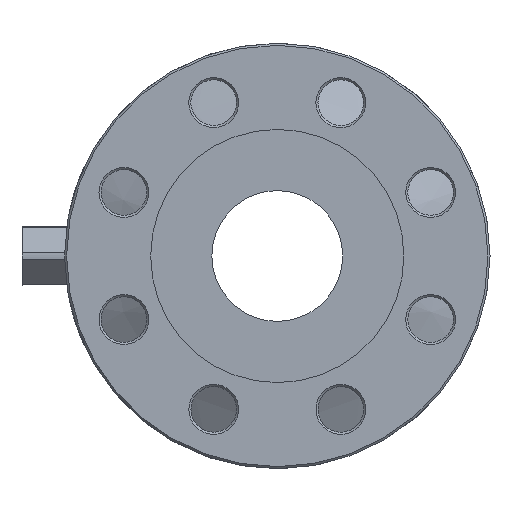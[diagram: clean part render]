
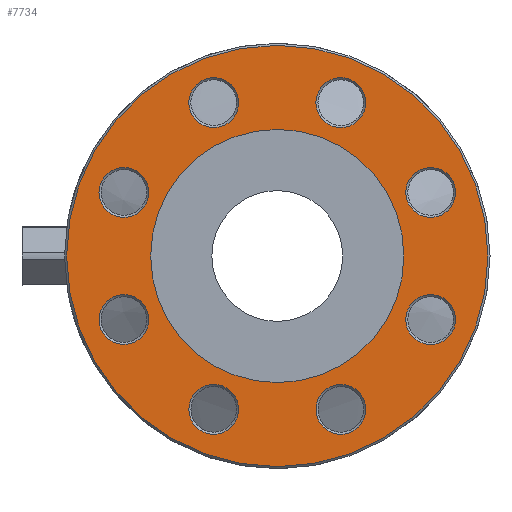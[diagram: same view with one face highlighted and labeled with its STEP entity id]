
A CAD part, left-side view. The second image highlights one B-rep face of the part: STEP entity #7734.
In plain terms, the highlighted planar face has unit normal (-1, 0, 0).
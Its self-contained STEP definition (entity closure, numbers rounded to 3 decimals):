
#7615=CARTESIAN_POINT('',(-114.,-39.1,-82.396));
#7616=VERTEX_POINT('',#7615);
#7617=CARTESIAN_POINT('',(-114.,-30.615,-73.91));
#7618=DIRECTION('',(-1.0,0.0,0.0));
#7619=DIRECTION('',(0.0,0.707,0.707));
#7620=AXIS2_PLACEMENT_3D('',#7617,#7618,#7619);
#7621=CIRCLE('',#7620,12.0);
#7622=EDGE_CURVE('',#7616,#7616,#7621,.T.);
#7627=CARTESIAN_POINT('',(-114.,-81.25,0.0));
#7628=DIRECTION('',(-1.0,0.0,0.0));
#7629=DIRECTION('',(0.0,0.0,1.0));
#7630=AXIS2_PLACEMENT_3D('',#7627,#7628,#7629);
#7631=PLANE('',#7630);
#7632=CARTESIAN_POINT('',(-114.,-101.5,0.0));
#7633=VERTEX_POINT('',#7632);
#7634=CARTESIAN_POINT('',(-114.,0.0,0.0));
#7635=DIRECTION('',(1.0,0.0,0.0));
#7636=DIRECTION('',(0.0,-1.0,0.0));
#7637=AXIS2_PLACEMENT_3D('',#7634,#7635,#7636);
#7638=CIRCLE('',#7637,101.5);
#7639=EDGE_CURVE('',#7633,#7633,#7638,.T.);
#7640=ORIENTED_EDGE('',*,*,#7639,.F.);
#7641=EDGE_LOOP('',(#7640));
#7642=FACE_OUTER_BOUND('',#7641,.T.);
#7643=CARTESIAN_POINT('',(-114.,-85.91,-30.615));
#7644=VERTEX_POINT('',#7643);
#7645=CARTESIAN_POINT('',(-114.,-73.91,-30.615));
#7646=DIRECTION('',(-1.0,0.0,0.0));
#7647=DIRECTION('',(0.0,1.0,0.0));
#7648=AXIS2_PLACEMENT_3D('',#7645,#7646,#7647);
#7649=CIRCLE('',#7648,12.);
#7650=EDGE_CURVE('',#7644,#7644,#7649,.T.);
#7651=ORIENTED_EDGE('',*,*,#7650,.F.);
#7652=EDGE_LOOP('',(#7651));
#7653=FACE_BOUND('',#7652,.T.);
#7654=CARTESIAN_POINT('',(-114.,-30.615,85.91));
#7655=VERTEX_POINT('',#7654);
#7656=CARTESIAN_POINT('',(-114.,-30.615,73.91));
#7657=DIRECTION('',(-1.0,0.0,0.0));
#7658=DIRECTION('',(0.0,0.0,-1.0));
#7659=AXIS2_PLACEMENT_3D('',#7656,#7657,#7658);
#7660=CIRCLE('',#7659,12.);
#7661=EDGE_CURVE('',#7655,#7655,#7660,.T.);
#7662=ORIENTED_EDGE('',*,*,#7661,.F.);
#7663=EDGE_LOOP('',(#7662));
#7664=FACE_BOUND('',#7663,.T.);
#7665=CARTESIAN_POINT('',(-114.,85.91,30.615));
#7666=VERTEX_POINT('',#7665);
#7667=CARTESIAN_POINT('',(-114.,73.91,30.615));
#7668=DIRECTION('',(-1.0,0.0,0.0));
#7669=DIRECTION('',(0.0,-1.0,0.0));
#7670=AXIS2_PLACEMENT_3D('',#7667,#7668,#7669);
#7671=CIRCLE('',#7670,12.);
#7672=EDGE_CURVE('',#7666,#7666,#7671,.T.);
#7673=ORIENTED_EDGE('',*,*,#7672,.F.);
#7674=EDGE_LOOP('',(#7673));
#7675=FACE_BOUND('',#7674,.T.);
#7676=CARTESIAN_POINT('',(-114.,30.615,-85.91));
#7677=VERTEX_POINT('',#7676);
#7678=CARTESIAN_POINT('',(-114.,30.615,-73.91));
#7679=DIRECTION('',(-1.0,0.0,0.0));
#7680=DIRECTION('',(0.0,0.0,1.0));
#7681=AXIS2_PLACEMENT_3D('',#7678,#7679,#7680);
#7682=CIRCLE('',#7681,12.);
#7683=EDGE_CURVE('',#7677,#7677,#7682,.T.);
#7684=ORIENTED_EDGE('',*,*,#7683,.F.);
#7685=EDGE_LOOP('',(#7684));
#7686=FACE_BOUND('',#7685,.T.);
#7687=CARTESIAN_POINT('',(-114.,-61.,0.0));
#7688=VERTEX_POINT('',#7687);
#7689=CARTESIAN_POINT('',(-114.,0.0,0.0));
#7690=DIRECTION('',(1.0,0.0,0.0));
#7691=DIRECTION('',(0.0,-1.0,0.0));
#7692=AXIS2_PLACEMENT_3D('',#7689,#7690,#7691);
#7693=CIRCLE('',#7692,61.);
#7694=EDGE_CURVE('',#7688,#7688,#7693,.T.);
#7695=ORIENTED_EDGE('',*,*,#7694,.T.);
#7696=EDGE_LOOP('',(#7695));
#7697=FACE_BOUND('',#7696,.T.);
#7698=CARTESIAN_POINT('',(-114.,82.396,-39.1));
#7699=VERTEX_POINT('',#7698);
#7700=CARTESIAN_POINT('',(-114.,73.91,-30.615));
#7701=DIRECTION('',(-1.0,0.0,0.0));
#7702=DIRECTION('',(0.0,-0.707,0.707));
#7703=AXIS2_PLACEMENT_3D('',#7700,#7701,#7702);
#7704=CIRCLE('',#7703,12.);
#7705=EDGE_CURVE('',#7699,#7699,#7704,.T.);
#7706=ORIENTED_EDGE('',*,*,#7705,.F.);
#7707=EDGE_LOOP('',(#7706));
#7708=FACE_BOUND('',#7707,.T.);
#7709=CARTESIAN_POINT('',(-114.,39.1,82.396));
#7710=VERTEX_POINT('',#7709);
#7711=CARTESIAN_POINT('',(-114.,30.615,73.91));
#7712=DIRECTION('',(-1.0,0.0,0.0));
#7713=DIRECTION('',(0.0,-0.707,-0.707));
#7714=AXIS2_PLACEMENT_3D('',#7711,#7712,#7713);
#7715=CIRCLE('',#7714,12.);
#7716=EDGE_CURVE('',#7710,#7710,#7715,.T.);
#7717=ORIENTED_EDGE('',*,*,#7716,.F.);
#7718=EDGE_LOOP('',(#7717));
#7719=FACE_BOUND('',#7718,.T.);
#7720=CARTESIAN_POINT('',(-114.,-82.396,39.1));
#7721=VERTEX_POINT('',#7720);
#7722=CARTESIAN_POINT('',(-114.,-73.91,30.615));
#7723=DIRECTION('',(-1.0,0.0,0.0));
#7724=DIRECTION('',(0.0,0.707,-0.707));
#7725=AXIS2_PLACEMENT_3D('',#7722,#7723,#7724);
#7726=CIRCLE('',#7725,12.);
#7727=EDGE_CURVE('',#7721,#7721,#7726,.T.);
#7728=ORIENTED_EDGE('',*,*,#7727,.F.);
#7729=EDGE_LOOP('',(#7728));
#7730=FACE_BOUND('',#7729,.T.);
#7731=ORIENTED_EDGE('',*,*,#7622,.F.);
#7732=EDGE_LOOP('',(#7731));
#7733=FACE_BOUND('',#7732,.T.);
#7734=ADVANCED_FACE('',(#7642,#7653,#7664,#7675,#7686,#7697,#7708,#7719,#7730,#7733),#7631,.T.);
